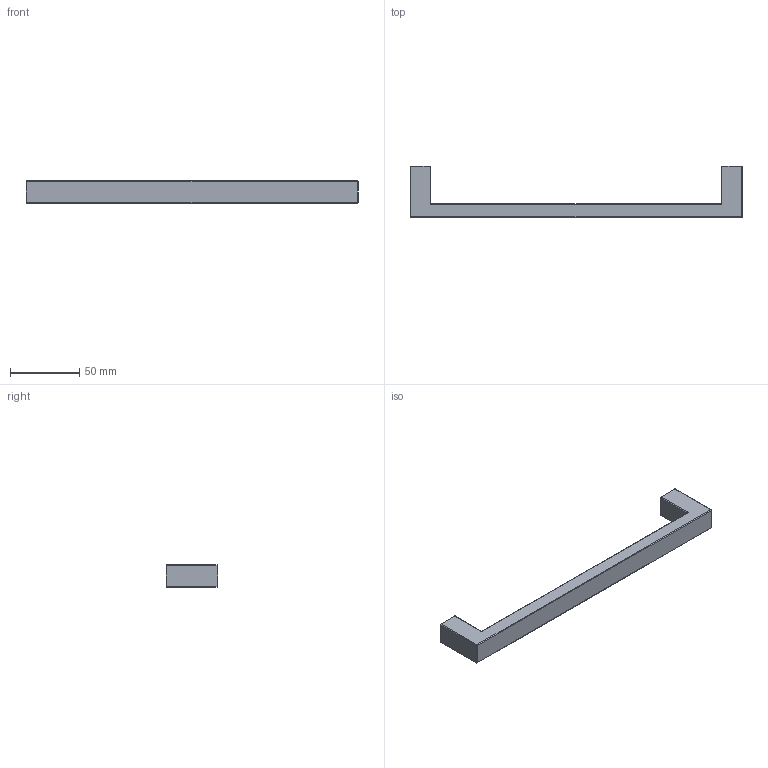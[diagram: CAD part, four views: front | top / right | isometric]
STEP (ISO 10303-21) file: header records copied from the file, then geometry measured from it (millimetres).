
FILE_DESCRIPTION( ( '' ), '1' );
FILE_NAME( 'C:/Documents and Settings/Sachin/Desktop/Sheet 10_1/stp/9069807.stp', '2013-10-22T06:53:41', ( '' ), ( '' ), ' ', ' ', ' ' );
FILE_SCHEMA( ( 'CONFIG_CONTROL_DESIGN' ) );
Length unit declared in the file: millimetre
Products named in the file (1): 1
Bounding box: 239 x 37 x 16 mm (x, y, z)
Volume: 50937.1 mm3; surface area: 16036.5 mm2
Topology: 1 solids, 1 shells, 36 faces, 88 edges, 56 vertices
Faces by surface type: cylinder 20, plane 16
Entity records: 1108 total; most frequent: DIRECTION 198, CARTESIAN_POINT 181, ORIENTED_EDGE 176, EDGE_CURVE 88, AXIS2_PLACEMENT_3D 73, VERTEX_POINT 56, LINE 52, VECTOR 52
